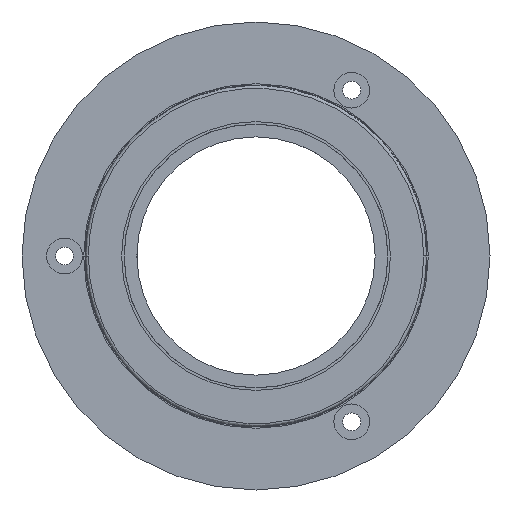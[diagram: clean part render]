
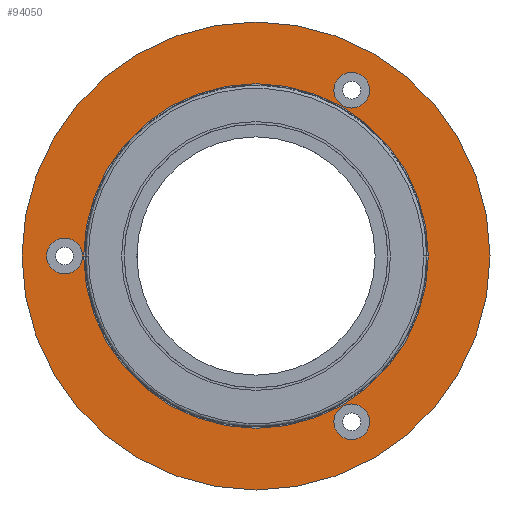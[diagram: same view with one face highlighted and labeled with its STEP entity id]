
A CAD part, left-side view. The second image highlights one B-rep face of the part: STEP entity #94050.
In plain terms, the highlighted planar face has unit normal (-1, 0, 0).
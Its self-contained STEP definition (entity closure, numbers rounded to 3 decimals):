
#1140 = CARTESIAN_POINT ( 'NONE',  ( 2.8, 22.5, 0. ) ) ;
#2224 = ORIENTED_EDGE ( 'NONE', *, *, #91733, .T. ) ;
#2418 = ORIENTED_EDGE ( 'NONE', *, *, #50680, .T. ) ;
#2576 = CIRCLE ( 'NONE', #84484, 2.1 ) ;
#2771 = CIRCLE ( 'NONE', #68002, 2.1 ) ;
#3331 = DIRECTION ( 'NONE',  ( -1., 0., 0. ) ) ;
#3339 = CIRCLE ( 'NONE', #22897, 2.1 ) ;
#3607 = DIRECTION ( 'NONE',  ( 0., 1., 0. ) ) ;
#6353 = CARTESIAN_POINT ( 'NONE',  ( 2.8, 17.5, 0. ) ) ;
#6495 = FACE_BOUND ( 'NONE', #51103, .T. ) ;
#6617 = CARTESIAN_POINT ( 'NONE',  ( 2.8, 22.5, 0. ) ) ;
#11744 = CARTESIAN_POINT ( 'NONE',  ( 2.8, 17.5, 0. ) ) ;
#15526 = CARTESIAN_POINT ( 'NONE',  ( 2.8, -13.35, -19.486 ) ) ;
#16383 = EDGE_LOOP ( 'NONE', ( #36793, #85212 ) ) ;
#18041 = CARTESIAN_POINT ( 'NONE',  ( 2.8, 0., 0. ) ) ;
#18214 = DIRECTION ( 'NONE',  ( 1., 0., 0. ) ) ;
#18334 = EDGE_CURVE ( 'NONE', #84548, #66611, #2576, .T. ) ;
#18628 = AXIS2_PLACEMENT_3D ( 'NONE', #1140, #22684, #81100 ) ;
#20699 = AXIS2_PLACEMENT_3D ( 'NONE', #6617, #51686, #65251 ) ;
#22684 = DIRECTION ( 'NONE',  ( 1., 0., 0. ) ) ;
#22897 = AXIS2_PLACEMENT_3D ( 'NONE', #69867, #39511, #84726 ) ;
#24405 = CARTESIAN_POINT ( 'NONE',  ( 2.8, 27.5, 0. ) ) ;
#24423 = VERTEX_POINT ( 'NONE', #24405 ) ;
#25602 = EDGE_CURVE ( 'NONE', #80291, #41864, #56326, .T. ) ;
#26922 = CIRCLE ( 'NONE', #46098, 27.5 ) ;
#28233 = DIRECTION ( 'NONE',  ( -1., 0., 0. ) ) ;
#31381 = EDGE_CURVE ( 'NONE', #64132, #24423, #26922, .T. ) ;
#32913 = DIRECTION ( 'NONE',  ( 0., 1., 0. ) ) ;
#33738 = DIRECTION ( 'NONE',  ( 1., 0., 0. ) ) ;
#33893 = CIRCLE ( 'NONE', #20699, 2.1 ) ;
#35914 = DIRECTION ( 'NONE',  ( 0., -1., 0. ) ) ;
#36793 = ORIENTED_EDGE ( 'NONE', *, *, #51673, .T. ) ;
#36831 = VERTEX_POINT ( 'NONE', #54325 ) ;
#38157 = DIRECTION ( 'NONE',  ( -1., 0., 0. ) ) ;
#38621 = CIRCLE ( 'NONE', #18628, 2.1 ) ;
#39511 = DIRECTION ( 'NONE',  ( 1., 0., 0. ) ) ;
#40378 = CARTESIAN_POINT ( 'NONE',  ( 2.8, -11.25, 19.486 ) ) ;
#41864 = VERTEX_POINT ( 'NONE', #70332 ) ;
#43044 = EDGE_LOOP ( 'NONE', ( #2418, #67439 ) ) ;
#43269 = DIRECTION ( 'NONE',  ( 1., 0., 0. ) ) ;
#46098 = AXIS2_PLACEMENT_3D ( 'NONE', #82402, #38157, #89811 ) ;
#47174 = EDGE_LOOP ( 'NONE', ( #57921, #86030 ) ) ;
#48500 = DIRECTION ( 'NONE',  ( 1., 0., 0. ) ) ;
#49127 = EDGE_CURVE ( 'NONE', #36831, #82535, #62185, .T. ) ;
#50680 = EDGE_CURVE ( 'NONE', #24423, #64132, #77366, .T. ) ;
#50729 = DIRECTION ( 'NONE',  ( 0., -1., 0. ) ) ;
#50792 = PLANE ( 'NONE',  #73067 ) ;
#51103 = EDGE_LOOP ( 'NONE', ( #85696, #2224 ) ) ;
#51412 = FACE_BOUND ( 'NONE', #16383, .T. ) ;
#51673 = EDGE_CURVE ( 'NONE', #82535, #36831, #71388, .T. ) ;
#51686 = DIRECTION ( 'NONE',  ( 1., 0., 0. ) ) ;
#54325 = CARTESIAN_POINT ( 'NONE',  ( 2.8, -17.5, 0. ) ) ;
#54473 = AXIS2_PLACEMENT_3D ( 'NONE', #40378, #18214, #77852 ) ;
#54887 = ORIENTED_EDGE ( 'NONE', *, *, #25602, .T. ) ;
#56326 = CIRCLE ( 'NONE', #54473, 2.1 ) ;
#56938 = VERTEX_POINT ( 'NONE', #78124 ) ;
#57546 = AXIS2_PLACEMENT_3D ( 'NONE', #61955, #3331, #32913 ) ;
#57921 = ORIENTED_EDGE ( 'NONE', *, *, #85744, .T. ) ;
#58256 = AXIS2_PLACEMENT_3D ( 'NONE', #18041, #33738, #62477 ) ;
#59453 = FACE_OUTER_BOUND ( 'NONE', #43044, .T. ) ;
#61088 = VERTEX_POINT ( 'NONE', #91151 ) ;
#61955 = CARTESIAN_POINT ( 'NONE',  ( 2.8, 0., 0. ) ) ;
#62185 = CIRCLE ( 'NONE', #74849, 17.5 ) ;
#62477 = DIRECTION ( 'NONE',  ( 0., 1., 0. ) ) ;
#64132 = VERTEX_POINT ( 'NONE', #68661 ) ;
#65251 = DIRECTION ( 'NONE',  ( 0., -1., 0. ) ) ;
#65671 = CARTESIAN_POINT ( 'NONE',  ( 2.8, -9.15, 19.486 ) ) ;
#66611 = VERTEX_POINT ( 'NONE', #74793 ) ;
#67079 = EDGE_CURVE ( 'NONE', #56938, #61088, #33893, .T. ) ;
#67439 = ORIENTED_EDGE ( 'NONE', *, *, #31381, .T. ) ;
#68002 = AXIS2_PLACEMENT_3D ( 'NONE', #70468, #48500, #91434 ) ;
#68393 = EDGE_LOOP ( 'NONE', ( #71364, #54887 ) ) ;
#68661 = CARTESIAN_POINT ( 'NONE',  ( 2.8, -27.5, 0. ) ) ;
#69867 = CARTESIAN_POINT ( 'NONE',  ( 2.8, -11.25, -19.486 ) ) ;
#70332 = CARTESIAN_POINT ( 'NONE',  ( 2.8, -13.35, 19.486 ) ) ;
#70468 = CARTESIAN_POINT ( 'NONE',  ( 2.8, -11.25, 19.486 ) ) ;
#71364 = ORIENTED_EDGE ( 'NONE', *, *, #75643, .T. ) ;
#71388 = CIRCLE ( 'NONE', #58256, 17.5 ) ;
#73067 = AXIS2_PLACEMENT_3D ( 'NONE', #6353, #28233, #35914 ) ;
#74793 = CARTESIAN_POINT ( 'NONE',  ( 2.8, -9.15, -19.486 ) ) ;
#74849 = AXIS2_PLACEMENT_3D ( 'NONE', #91576, #83215, #3607 ) ;
#75643 = EDGE_CURVE ( 'NONE', #41864, #80291, #2771, .T. ) ;
#77366 = CIRCLE ( 'NONE', #57546, 27.5 ) ;
#77852 = DIRECTION ( 'NONE',  ( 0., -1., 0. ) ) ;
#78124 = CARTESIAN_POINT ( 'NONE',  ( 2.8, 24.6, 0. ) ) ;
#79102 = FACE_BOUND ( 'NONE', #68393, .T. ) ;
#80291 = VERTEX_POINT ( 'NONE', #65671 ) ;
#81100 = DIRECTION ( 'NONE',  ( 0., -1., 0. ) ) ;
#82402 = CARTESIAN_POINT ( 'NONE',  ( 2.8, 0., 0. ) ) ;
#82535 = VERTEX_POINT ( 'NONE', #11744 ) ;
#82602 = FACE_BOUND ( 'NONE', #47174, .T. ) ;
#83215 = DIRECTION ( 'NONE',  ( 1., 0., 0. ) ) ;
#84484 = AXIS2_PLACEMENT_3D ( 'NONE', #87524, #43269, #50729 ) ;
#84548 = VERTEX_POINT ( 'NONE', #15526 ) ;
#84726 = DIRECTION ( 'NONE',  ( 0., -1., 0. ) ) ;
#85212 = ORIENTED_EDGE ( 'NONE', *, *, #49127, .T. ) ;
#85696 = ORIENTED_EDGE ( 'NONE', *, *, #18334, .T. ) ;
#85744 = EDGE_CURVE ( 'NONE', #61088, #56938, #38621, .T. ) ;
#86030 = ORIENTED_EDGE ( 'NONE', *, *, #67079, .T. ) ;
#87524 = CARTESIAN_POINT ( 'NONE',  ( 2.8, -11.25, -19.486 ) ) ;
#89811 = DIRECTION ( 'NONE',  ( 0., 1., 0. ) ) ;
#91151 = CARTESIAN_POINT ( 'NONE',  ( 2.8, 20.4, 0. ) ) ;
#91434 = DIRECTION ( 'NONE',  ( 0., -1., 0. ) ) ;
#91576 = CARTESIAN_POINT ( 'NONE',  ( 2.8, 0., 0. ) ) ;
#91733 = EDGE_CURVE ( 'NONE', #66611, #84548, #3339, .T. ) ;
#94050 = ADVANCED_FACE ( 'NONE', ( #59453, #51412, #79102, #6495, #82602 ), #50792, .T. ) ;
